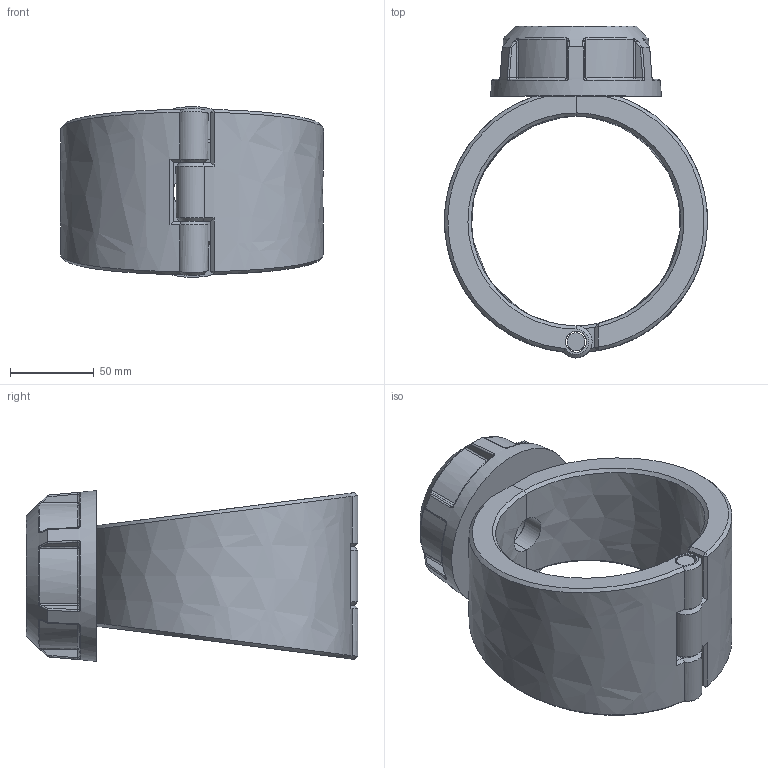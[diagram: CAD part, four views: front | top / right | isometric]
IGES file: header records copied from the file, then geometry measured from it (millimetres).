
Global section: file name: 163000125015; native system: Autodesk Inventor 2019; preprocessor: unknown; author: comp2; date: 20220203.115102; units: millimetre
Bounding box: 157 x 198 x 101.86 mm (x, y, z)
Volume: 751123.1 mm3; surface area: 124547.1 mm2
Topology: 4 solids, 4 shells, 203 faces, 486 edges, 293 vertices
Faces by surface type: bspline 203
